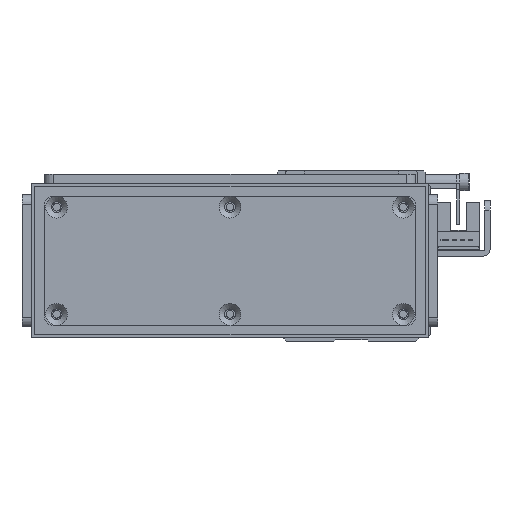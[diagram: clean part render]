
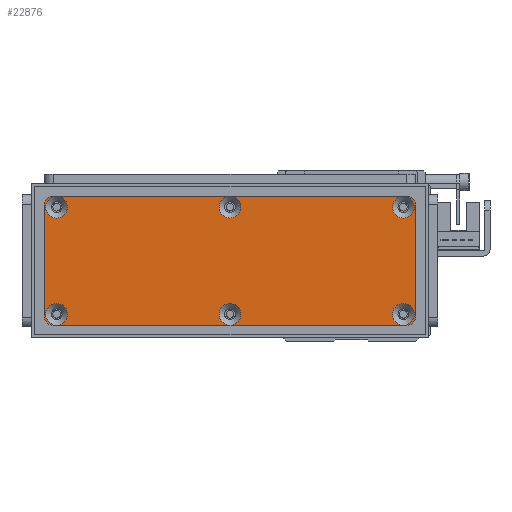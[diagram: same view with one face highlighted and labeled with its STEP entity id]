
A CAD part, front view. The second image highlights one B-rep face of the part: STEP entity #22876.
In plain terms, the highlighted planar face has unit normal (0, -1, 0) as drawn and (0, 0, 1) by its records, which use the part's own axes.
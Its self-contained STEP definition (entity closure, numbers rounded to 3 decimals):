
#850=FACE_BOUND('',#4146,.T.);
#851=FACE_BOUND('',#4147,.T.);
#852=FACE_BOUND('',#4148,.T.);
#853=FACE_BOUND('',#4149,.T.);
#854=FACE_BOUND('',#4150,.T.);
#855=FACE_BOUND('',#4151,.T.);
#1500=PLANE('',#25465);
#2604=FACE_OUTER_BOUND('',#4145,.T.);
#4145=EDGE_LOOP('',(#20324,#20325,#20326,#20327,#20328,#20329,#20330,#20331));
#4146=EDGE_LOOP('',(#20332));
#4147=EDGE_LOOP('',(#20333));
#4148=EDGE_LOOP('',(#20334));
#4149=EDGE_LOOP('',(#20335));
#4150=EDGE_LOOP('',(#20336));
#4151=EDGE_LOOP('',(#20337));
#6208=LINE('',#39200,#8343);
#6212=LINE('',#39212,#8347);
#6216=LINE('',#39224,#8351);
#6220=LINE('',#39234,#8355);
#8343=VECTOR('',#31346,10.);
#8347=VECTOR('',#31358,10.);
#8351=VECTOR('',#31370,10.);
#8355=VECTOR('',#31382,10.);
#9430=CIRCLE('',#25419,3.45);
#9433=CIRCLE('',#25424,3.45);
#9436=CIRCLE('',#25429,3.45);
#9439=CIRCLE('',#25434,3.45);
#9442=CIRCLE('',#25439,3.45);
#9445=CIRCLE('',#25444,3.45);
#9449=CIRCLE('',#25450,3.);
#9451=CIRCLE('',#25454,3.);
#9453=CIRCLE('',#25458,3.);
#9455=CIRCLE('',#25462,3.);
#11402=VERTEX_POINT('',#39128);
#11405=VERTEX_POINT('',#39138);
#11408=VERTEX_POINT('',#39148);
#11411=VERTEX_POINT('',#39158);
#11414=VERTEX_POINT('',#39168);
#11417=VERTEX_POINT('',#39178);
#11422=VERTEX_POINT('',#39191);
#11423=VERTEX_POINT('',#39193);
#11425=VERTEX_POINT('',#39199);
#11427=VERTEX_POINT('',#39205);
#11429=VERTEX_POINT('',#39211);
#11431=VERTEX_POINT('',#39217);
#11433=VERTEX_POINT('',#39223);
#11435=VERTEX_POINT('',#39229);
#14406=EDGE_CURVE('',#11402,#11402,#9430,.T.);
#14411=EDGE_CURVE('',#11405,#11405,#9433,.T.);
#14416=EDGE_CURVE('',#11408,#11408,#9436,.T.);
#14421=EDGE_CURVE('',#11411,#11411,#9439,.T.);
#14426=EDGE_CURVE('',#11414,#11414,#9442,.T.);
#14431=EDGE_CURVE('',#11417,#11417,#9445,.T.);
#14438=EDGE_CURVE('',#11423,#11422,#9449,.T.);
#14441=EDGE_CURVE('',#11425,#11423,#6208,.T.);
#14444=EDGE_CURVE('',#11427,#11425,#9451,.T.);
#14447=EDGE_CURVE('',#11429,#11427,#6212,.T.);
#14450=EDGE_CURVE('',#11431,#11429,#9453,.T.);
#14453=EDGE_CURVE('',#11433,#11431,#6216,.T.);
#14456=EDGE_CURVE('',#11435,#11433,#9455,.T.);
#14459=EDGE_CURVE('',#11422,#11435,#6220,.T.);
#20324=ORIENTED_EDGE('',*,*,#14459,.T.);
#20325=ORIENTED_EDGE('',*,*,#14456,.T.);
#20326=ORIENTED_EDGE('',*,*,#14453,.T.);
#20327=ORIENTED_EDGE('',*,*,#14450,.T.);
#20328=ORIENTED_EDGE('',*,*,#14447,.T.);
#20329=ORIENTED_EDGE('',*,*,#14444,.T.);
#20330=ORIENTED_EDGE('',*,*,#14441,.T.);
#20331=ORIENTED_EDGE('',*,*,#14438,.T.);
#20332=ORIENTED_EDGE('',*,*,#14406,.T.);
#20333=ORIENTED_EDGE('',*,*,#14411,.T.);
#20334=ORIENTED_EDGE('',*,*,#14416,.T.);
#20335=ORIENTED_EDGE('',*,*,#14421,.T.);
#20336=ORIENTED_EDGE('',*,*,#14426,.T.);
#20337=ORIENTED_EDGE('',*,*,#14431,.T.);
#22876=ADVANCED_FACE('',(#2604,#850,#851,#852,#853,#854,#855),#1500,.T.);
#25419=AXIS2_PLACEMENT_3D('',#39129,#31265,#31266);
#25424=AXIS2_PLACEMENT_3D('',#39139,#31277,#31278);
#25429=AXIS2_PLACEMENT_3D('',#39149,#31289,#31290);
#25434=AXIS2_PLACEMENT_3D('',#39159,#31301,#31302);
#25439=AXIS2_PLACEMENT_3D('',#39169,#31313,#31314);
#25444=AXIS2_PLACEMENT_3D('',#39179,#31325,#31326);
#25450=AXIS2_PLACEMENT_3D('',#39194,#31340,#31341);
#25454=AXIS2_PLACEMENT_3D('',#39206,#31352,#31353);
#25458=AXIS2_PLACEMENT_3D('',#39218,#31364,#31365);
#25462=AXIS2_PLACEMENT_3D('',#39230,#31376,#31377);
#25465=AXIS2_PLACEMENT_3D('',#39236,#31385,#31386);
#31265=DIRECTION('center_axis',(0.,0.,-1.));
#31266=DIRECTION('ref_axis',(1.,0.,0.));
#31277=DIRECTION('center_axis',(0.,0.,-1.));
#31278=DIRECTION('ref_axis',(1.,0.,0.));
#31289=DIRECTION('center_axis',(0.,0.,-1.));
#31290=DIRECTION('ref_axis',(1.,0.,0.));
#31301=DIRECTION('center_axis',(0.,0.,-1.));
#31302=DIRECTION('ref_axis',(1.,0.,0.));
#31313=DIRECTION('center_axis',(0.,0.,-1.));
#31314=DIRECTION('ref_axis',(1.,0.,0.));
#31325=DIRECTION('center_axis',(0.,0.,-1.));
#31326=DIRECTION('ref_axis',(1.,0.,0.));
#31340=DIRECTION('center_axis',(0.,0.,1.));
#31341=DIRECTION('ref_axis',(-1.,0.,0.));
#31346=DIRECTION('',(0.,1.,0.));
#31352=DIRECTION('center_axis',(0.,0.,1.));
#31353=DIRECTION('ref_axis',(0.,1.,0.));
#31358=DIRECTION('',(1.,0.,0.));
#31364=DIRECTION('center_axis',(0.,0.,1.));
#31365=DIRECTION('ref_axis',(1.,0.,0.));
#31370=DIRECTION('',(0.,-1.,0.));
#31376=DIRECTION('center_axis',(0.,0.,1.));
#31377=DIRECTION('ref_axis',(0.,-1.,0.));
#31382=DIRECTION('',(-1.,0.,0.));
#31385=DIRECTION('center_axis',(0.,0.,1.));
#31386=DIRECTION('ref_axis',(1.,0.,0.));
#39128=CARTESIAN_POINT('',(110.55,3.5,3.));
#39129=CARTESIAN_POINT('Origin',(114.,3.5,3.));
#39138=CARTESIAN_POINT('',(55.55,37.5,3.));
#39139=CARTESIAN_POINT('Origin',(59.,37.5,3.));
#39148=CARTESIAN_POINT('',(55.55,3.5,3.));
#39149=CARTESIAN_POINT('Origin',(59.,3.5,3.));
#39158=CARTESIAN_POINT('',(0.55,37.5,3.));
#39159=CARTESIAN_POINT('Origin',(4.,37.5,3.));
#39168=CARTESIAN_POINT('',(110.55,37.5,3.));
#39169=CARTESIAN_POINT('Origin',(114.,37.5,3.));
#39178=CARTESIAN_POINT('',(0.55,3.5,3.));
#39179=CARTESIAN_POINT('Origin',(4.,3.5,3.));
#39191=CARTESIAN_POINT('',(115.,41.,3.));
#39193=CARTESIAN_POINT('',(118.,38.,3.));
#39194=CARTESIAN_POINT('Origin',(115.,38.,3.));
#39199=CARTESIAN_POINT('',(118.,3.,3.));
#39200=CARTESIAN_POINT('',(118.,38.,3.));
#39205=CARTESIAN_POINT('',(115.,0.,3.));
#39206=CARTESIAN_POINT('Origin',(115.,3.,3.));
#39211=CARTESIAN_POINT('',(3.,0.,3.));
#39212=CARTESIAN_POINT('',(115.,0.,3.));
#39217=CARTESIAN_POINT('',(0.,3.,3.));
#39218=CARTESIAN_POINT('Origin',(3.,3.,3.));
#39223=CARTESIAN_POINT('',(0.,38.,3.));
#39224=CARTESIAN_POINT('',(0.,3.,3.));
#39229=CARTESIAN_POINT('',(3.,41.,3.));
#39230=CARTESIAN_POINT('Origin',(3.,38.,3.));
#39234=CARTESIAN_POINT('',(3.,41.,3.));
#39236=CARTESIAN_POINT('Origin',(59.,20.5,3.));
